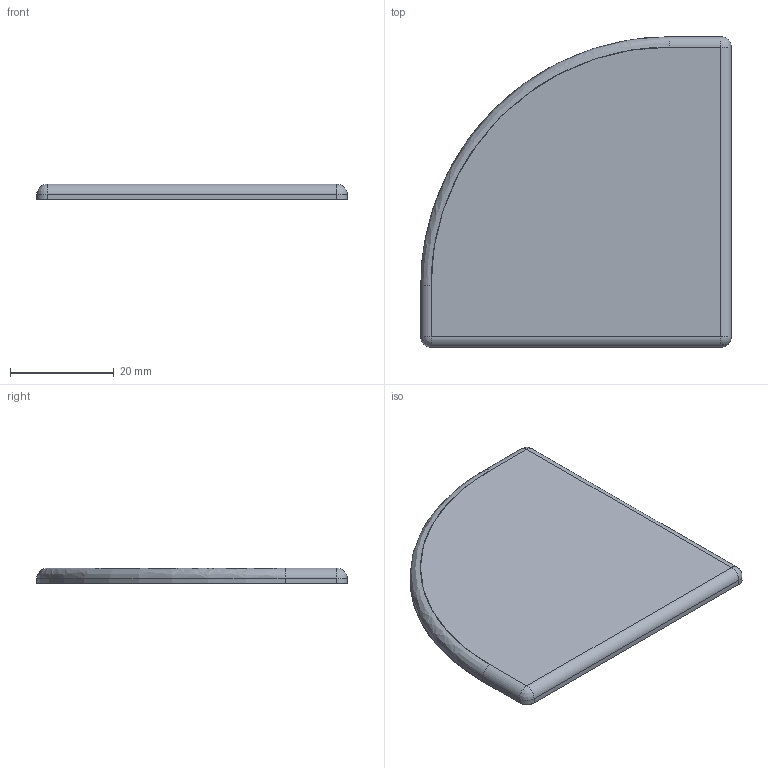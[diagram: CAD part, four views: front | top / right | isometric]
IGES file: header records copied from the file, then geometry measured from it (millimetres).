
Start section: SolidWorks IGES file using analytic representation for surfaces
Global section: file name: C:\Documents and Settings\Administrator\デスクトップ\指定保存後3回目\SolidWorks\SF\SF30\Parts\SFA-029.IGS; native system: SolidWorks 2006 by SolidWorks Corporation; preprocessor: SolidWorks 2006 by SolidWorks Corporation; author: Administrator; date: 061213.104956; units: millimetre
Bounding box: 60 x 60 x 3 mm (x, y, z)
Surface area: 6668.5 mm2 (no closed solid volume)
Topology: 0 solids, 0 shells, 18 faces, 165 edges, 199 vertices
Faces by surface type: revolution 11, bspline 7
